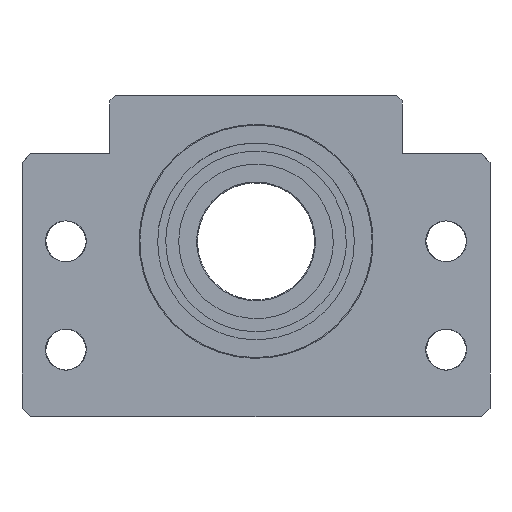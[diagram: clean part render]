
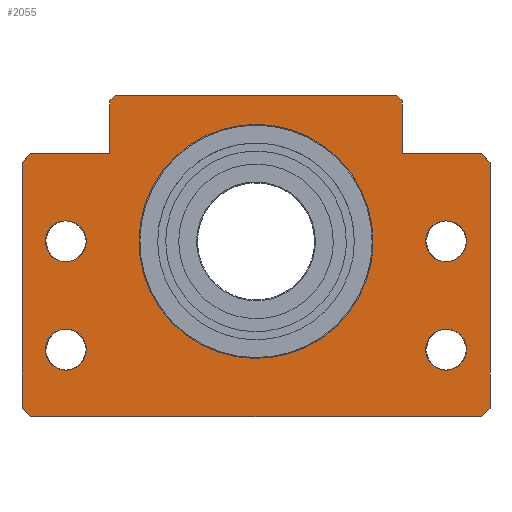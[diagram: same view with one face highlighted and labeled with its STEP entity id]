
A CAD part, front view. The second image highlights one B-rep face of the part: STEP entity #2055.
In plain terms, the highlighted free-form (B-spline) face has degree [1, 1] with [2, 2] control points.
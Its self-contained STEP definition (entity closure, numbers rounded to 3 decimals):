
#1050=CARTESIAN_POINT('',(40.,0.,0.));
#1051=VERTEX_POINT('',#1050);
#1057=CARTESIAN_POINT('',(40.,0.,0.));
#1058=CARTESIAN_POINT('',(40.,40.,0.));
#1059=CARTESIAN_POINT('',(0.,40.,0.));
#1060=CARTESIAN_POINT('',(-40.,40.,0.));
#1061=CARTESIAN_POINT('',(-40.,0.,0.));
#1062=CARTESIAN_POINT('',(-40.,-40.,0.));
#1063=CARTESIAN_POINT('',(0.,-40.,0.));
#1064=CARTESIAN_POINT('',(40.,-40.,0.));
#1065=CARTESIAN_POINT('',(40.,0.,0.));
#1066=(BOUNDED_CURVE()B_SPLINE_CURVE(2,(#1057,#1058,#1059,#1060,#1061,#1062,#1063,#1064,#1065),.UNSPECIFIED.,.T.,.U.)B_SPLINE_CURVE_WITH_KNOTS((3,2,2,2,3),(0.,0.25,0.5,0.75,1.),.UNSPECIFIED.)CURVE()GEOMETRIC_REPRESENTATION_ITEM()RATIONAL_B_SPLINE_CURVE((1.,0.707,1.,0.707,1.,0.707,1.,0.707,1.))REPRESENTATION_ITEM(''));
#1067=EDGE_CURVE('',#1051,#1051,#1066,.T.);
#1150=CARTESIAN_POINT('',(-80.,27.,0.));
#1151=VERTEX_POINT('',#1150);
#1152=CARTESIAN_POINT('',(-80.,-57.,0.));
#1153=VERTEX_POINT('',#1152);
#1154=CARTESIAN_POINT('',(-80.,27.,0.));
#1155=CARTESIAN_POINT('',(-80.,-57.,0.));
#1156=B_SPLINE_CURVE_WITH_KNOTS('',1,(#1154,#1155),.POLYLINE_FORM.,.F.,.U.,(2,2),(0.,1.),.UNSPECIFIED.);
#1157=EDGE_CURVE('',#1151,#1153,#1156,.T.);
#1186=CARTESIAN_POINT('',(-77.,-60.,0.));
#1187=VERTEX_POINT('',#1186);
#1188=CARTESIAN_POINT('',(-80.,-57.,0.));
#1189=CARTESIAN_POINT('',(-77.,-60.,0.));
#1190=B_SPLINE_CURVE_WITH_KNOTS('',1,(#1188,#1189),.POLYLINE_FORM.,.F.,.U.,(2,2),(0.,1.),.UNSPECIFIED.);
#1191=EDGE_CURVE('',#1153,#1187,#1190,.T.);
#1214=CARTESIAN_POINT('',(77.,-60.,0.));
#1215=VERTEX_POINT('',#1214);
#1216=CARTESIAN_POINT('',(80.,-57.,0.));
#1217=VERTEX_POINT('',#1216);
#1218=CARTESIAN_POINT('',(77.,-60.,0.));
#1219=CARTESIAN_POINT('',(80.,-57.,0.));
#1220=B_SPLINE_CURVE_WITH_KNOTS('',1,(#1218,#1219),.POLYLINE_FORM.,.F.,.U.,(2,2),(0.,1.),.UNSPECIFIED.);
#1221=EDGE_CURVE('',#1215,#1217,#1220,.T.);
#1250=CARTESIAN_POINT('',(80.,27.,0.));
#1251=VERTEX_POINT('',#1250);
#1252=CARTESIAN_POINT('',(80.,-57.,0.));
#1253=CARTESIAN_POINT('',(80.,27.,0.));
#1254=B_SPLINE_CURVE_WITH_KNOTS('',1,(#1252,#1253),.POLYLINE_FORM.,.F.,.U.,(2,2),(0.,1.),.UNSPECIFIED.);
#1255=EDGE_CURVE('',#1217,#1251,#1254,.T.);
#1278=CARTESIAN_POINT('',(-77.,-60.,0.));
#1279=CARTESIAN_POINT('',(77.,-60.,0.));
#1280=B_SPLINE_CURVE_WITH_KNOTS('',1,(#1278,#1279),.POLYLINE_FORM.,.F.,.U.,(2,2),(0.,1.),.UNSPECIFIED.);
#1281=EDGE_CURVE('',#1187,#1215,#1280,.T.);
#1338=CARTESIAN_POINT('',(77.,30.,0.));
#1339=VERTEX_POINT('',#1338);
#1345=CARTESIAN_POINT('',(80.,27.,0.));
#1346=CARTESIAN_POINT('',(77.,30.,0.));
#1347=B_SPLINE_CURVE_WITH_KNOTS('',1,(#1345,#1346),.POLYLINE_FORM.,.F.,.U.,(2,2),(0.,1.),.UNSPECIFIED.);
#1348=EDGE_CURVE('',#1251,#1339,#1347,.T.);
#1374=CARTESIAN_POINT('',(50.,30.,0.));
#1375=VERTEX_POINT('',#1374);
#1381=CARTESIAN_POINT('',(77.,30.,0.));
#1382=CARTESIAN_POINT('',(50.,30.,0.));
#1383=B_SPLINE_CURVE_WITH_KNOTS('',1,(#1381,#1382),.POLYLINE_FORM.,.F.,.U.,(2,2),(0.,1.),.UNSPECIFIED.);
#1384=EDGE_CURVE('',#1339,#1375,#1383,.T.);
#1395=CARTESIAN_POINT('',(50.,48.,0.));
#1396=VERTEX_POINT('',#1395);
#1397=CARTESIAN_POINT('',(50.,30.,0.));
#1398=CARTESIAN_POINT('',(50.,48.,0.));
#1399=B_SPLINE_CURVE_WITH_KNOTS('',1,(#1397,#1398),.POLYLINE_FORM.,.F.,.U.,(2,2),(0.,1.),.UNSPECIFIED.);
#1400=EDGE_CURVE('',#1375,#1396,#1399,.T.);
#1423=CARTESIAN_POINT('',(48.,50.,0.));
#1424=VERTEX_POINT('',#1423);
#1425=CARTESIAN_POINT('',(50.,48.,0.));
#1426=CARTESIAN_POINT('',(48.,50.,0.));
#1427=B_SPLINE_CURVE_WITH_KNOTS('',1,(#1425,#1426),.POLYLINE_FORM.,.F.,.U.,(2,2),(0.,1.),.UNSPECIFIED.);
#1428=EDGE_CURVE('',#1396,#1424,#1427,.T.);
#1451=CARTESIAN_POINT('',(-48.,50.,0.));
#1452=VERTEX_POINT('',#1451);
#1453=CARTESIAN_POINT('',(48.,50.,0.));
#1454=CARTESIAN_POINT('',(-48.,50.,0.));
#1455=B_SPLINE_CURVE_WITH_KNOTS('',1,(#1453,#1454),.POLYLINE_FORM.,.F.,.U.,(2,2),(0.,1.),.UNSPECIFIED.);
#1456=EDGE_CURVE('',#1424,#1452,#1455,.T.);
#1479=CARTESIAN_POINT('',(-50.,48.,0.));
#1480=VERTEX_POINT('',#1479);
#1481=CARTESIAN_POINT('',(-48.,50.,0.));
#1482=CARTESIAN_POINT('',(-50.,48.,0.));
#1483=B_SPLINE_CURVE_WITH_KNOTS('',1,(#1481,#1482),.POLYLINE_FORM.,.F.,.U.,(2,2),(0.,1.),.UNSPECIFIED.);
#1484=EDGE_CURVE('',#1452,#1480,#1483,.T.);
#1507=CARTESIAN_POINT('',(-50.,30.,0.));
#1508=VERTEX_POINT('',#1507);
#1509=CARTESIAN_POINT('',(-50.,48.,0.));
#1510=CARTESIAN_POINT('',(-50.,30.,0.));
#1511=B_SPLINE_CURVE_WITH_KNOTS('',1,(#1509,#1510),.POLYLINE_FORM.,.F.,.U.,(2,2),(0.,1.),.UNSPECIFIED.);
#1512=EDGE_CURVE('',#1480,#1508,#1511,.T.);
#1566=CARTESIAN_POINT('',(-77.,30.,0.));
#1567=VERTEX_POINT('',#1566);
#1573=CARTESIAN_POINT('',(-50.,30.,0.));
#1574=CARTESIAN_POINT('',(-77.,30.,0.));
#1575=B_SPLINE_CURVE_WITH_KNOTS('',1,(#1573,#1574),.POLYLINE_FORM.,.F.,.U.,(2,2),(0.,1.),.UNSPECIFIED.);
#1576=EDGE_CURVE('',#1508,#1567,#1575,.T.);
#1606=CARTESIAN_POINT('',(-77.,30.,0.));
#1607=CARTESIAN_POINT('',(-80.,27.,0.));
#1608=B_SPLINE_CURVE_WITH_KNOTS('',1,(#1606,#1607),.POLYLINE_FORM.,.F.,.U.,(2,2),(0.,1.),.UNSPECIFIED.);
#1609=EDGE_CURVE('',#1567,#1151,#1608,.T.);
#1886=CARTESIAN_POINT('',(72.,0.,0.));
#1887=VERTEX_POINT('',#1886);
#1888=CARTESIAN_POINT('',(72.,0.,0.));
#1889=CARTESIAN_POINT('',(72.,12.124,0.));
#1890=CARTESIAN_POINT('',(61.5,6.062,0.));
#1891=CARTESIAN_POINT('',(51.,0.,0.));
#1892=CARTESIAN_POINT('',(61.5,-6.062,0.));
#1893=CARTESIAN_POINT('',(72.,-12.124,0.));
#1894=CARTESIAN_POINT('',(72.,0.,0.));
#1895=(BOUNDED_CURVE()B_SPLINE_CURVE(2,(#1888,#1889,#1890,#1891,#1892,#1893,#1894),.CIRCULAR_ARC.,.T.,.U.)B_SPLINE_CURVE_WITH_KNOTS((3,2,2,3),(0.,0.333,0.667,1.),.UNSPECIFIED.)CURVE()GEOMETRIC_REPRESENTATION_ITEM()RATIONAL_B_SPLINE_CURVE((1.,0.5,1.,0.5,1.,0.5,1.))REPRESENTATION_ITEM(''));
#1896=EDGE_CURVE('',#1887,#1887,#1895,.T.);
#1949=CARTESIAN_POINT('',(-58.,0.,0.));
#1950=VERTEX_POINT('',#1949);
#1951=CARTESIAN_POINT('',(-58.,0.,0.));
#1952=CARTESIAN_POINT('',(-58.,12.124,0.));
#1953=CARTESIAN_POINT('',(-68.5,6.062,0.));
#1954=CARTESIAN_POINT('',(-79.,0.,0.));
#1955=CARTESIAN_POINT('',(-68.5,-6.062,0.));
#1956=CARTESIAN_POINT('',(-58.,-12.124,0.));
#1957=CARTESIAN_POINT('',(-58.,0.,0.));
#1958=(BOUNDED_CURVE()B_SPLINE_CURVE(2,(#1951,#1952,#1953,#1954,#1955,#1956,#1957),.CIRCULAR_ARC.,.T.,.U.)B_SPLINE_CURVE_WITH_KNOTS((3,2,2,3),(0.,0.333,0.667,1.),.UNSPECIFIED.)CURVE()GEOMETRIC_REPRESENTATION_ITEM()RATIONAL_B_SPLINE_CURVE((1.,0.5,1.,0.5,1.,0.5,1.))REPRESENTATION_ITEM(''));
#1959=EDGE_CURVE('',#1950,#1950,#1958,.T.);
#1997=CARTESIAN_POINT('',(-84.8,-63.3,0.));
#1998=CARTESIAN_POINT('',(-84.8,53.3,0.));
#1999=CARTESIAN_POINT('',(84.8,-63.3,0.));
#2000=CARTESIAN_POINT('',(84.8,53.3,0.));
#2001=B_SPLINE_SURFACE_WITH_KNOTS('',1,1,((#1997,#1998),(#1999,#2000)),.PLANE_SURF.,.F.,.F.,.U.,(2,2),(2,2),(0.,1.),(0.,1.),.UNSPECIFIED.);
#2002=ORIENTED_EDGE('',*,*,#1157,.T.);
#2003=ORIENTED_EDGE('',*,*,#1191,.T.);
#2004=ORIENTED_EDGE('',*,*,#1281,.T.);
#2005=ORIENTED_EDGE('',*,*,#1221,.T.);
#2006=ORIENTED_EDGE('',*,*,#1255,.T.);
#2007=ORIENTED_EDGE('',*,*,#1348,.T.);
#2008=ORIENTED_EDGE('',*,*,#1384,.T.);
#2009=ORIENTED_EDGE('',*,*,#1400,.T.);
#2010=ORIENTED_EDGE('',*,*,#1428,.T.);
#2011=ORIENTED_EDGE('',*,*,#1456,.T.);
#2012=ORIENTED_EDGE('',*,*,#1484,.T.);
#2013=ORIENTED_EDGE('',*,*,#1512,.T.);
#2014=ORIENTED_EDGE('',*,*,#1576,.T.);
#2015=ORIENTED_EDGE('',*,*,#1609,.T.);
#2016=EDGE_LOOP('',(#2002,#2003,#2004,#2005,#2006,#2007,#2008,#2009,#2010,#2011,#2012,#2013,#2014,#2015));
#2017=FACE_OUTER_BOUND('',#2016,.T.);
#2018=ORIENTED_EDGE('',*,*,#1959,.F.);
#2019=EDGE_LOOP('',(#2018));
#2020=FACE_BOUND('',#2019,.T.);
#2021=ORIENTED_EDGE('',*,*,#1896,.F.);
#2022=EDGE_LOOP('',(#2021));
#2023=FACE_BOUND('',#2022,.T.);
#2024=ORIENTED_EDGE('',*,*,#1067,.F.);
#2025=EDGE_LOOP('',(#2024));
#2026=FACE_BOUND('',#2025,.T.);
#2027=CARTESIAN_POINT('',(-58.,-37.,0.));
#2028=VERTEX_POINT('',#2027);
#2029=CARTESIAN_POINT('',(-58.,-37.,0.));
#2030=CARTESIAN_POINT('',(-58.,-24.876,0.));
#2031=CARTESIAN_POINT('',(-68.5,-30.938,0.));
#2032=CARTESIAN_POINT('',(-79.,-37.,0.));
#2033=CARTESIAN_POINT('',(-68.5,-43.062,0.));
#2034=CARTESIAN_POINT('',(-58.,-49.124,0.));
#2035=CARTESIAN_POINT('',(-58.,-37.,0.));
#2036=(BOUNDED_CURVE()B_SPLINE_CURVE(2,(#2029,#2030,#2031,#2032,#2033,#2034,#2035),.CIRCULAR_ARC.,.T.,.U.)B_SPLINE_CURVE_WITH_KNOTS((3,2,2,3),(0.,0.333,0.667,1.),.UNSPECIFIED.)CURVE()GEOMETRIC_REPRESENTATION_ITEM()RATIONAL_B_SPLINE_CURVE((1.,0.5,1.,0.5,1.,0.5,1.))REPRESENTATION_ITEM(''));
#2037=EDGE_CURVE('',#2028,#2028,#2036,.T.);
#2038=ORIENTED_EDGE('',*,*,#2037,.F.);
#2039=EDGE_LOOP('',(#2038));
#2040=FACE_BOUND('',#2039,.T.);
#2041=CARTESIAN_POINT('',(72.,-37.,0.));
#2042=VERTEX_POINT('',#2041);
#2043=CARTESIAN_POINT('',(72.,-37.,0.));
#2044=CARTESIAN_POINT('',(72.,-24.876,0.));
#2045=CARTESIAN_POINT('',(61.5,-30.938,0.));
#2046=CARTESIAN_POINT('',(51.,-37.,0.));
#2047=CARTESIAN_POINT('',(61.5,-43.062,0.));
#2048=CARTESIAN_POINT('',(72.,-49.124,0.));
#2049=CARTESIAN_POINT('',(72.,-37.,0.));
#2050=(BOUNDED_CURVE()B_SPLINE_CURVE(2,(#2043,#2044,#2045,#2046,#2047,#2048,#2049),.CIRCULAR_ARC.,.T.,.U.)B_SPLINE_CURVE_WITH_KNOTS((3,2,2,3),(0.,0.333,0.667,1.),.UNSPECIFIED.)CURVE()GEOMETRIC_REPRESENTATION_ITEM()RATIONAL_B_SPLINE_CURVE((1.,0.5,1.,0.5,1.,0.5,1.))REPRESENTATION_ITEM(''));
#2051=EDGE_CURVE('',#2042,#2042,#2050,.T.);
#2052=ORIENTED_EDGE('',*,*,#2051,.F.);
#2053=EDGE_LOOP('',(#2052));
#2054=FACE_BOUND('',#2053,.T.);
#2055=ADVANCED_FACE('',(#2017,#2020,#2023,#2026,#2040,#2054),#2001,.T.);
